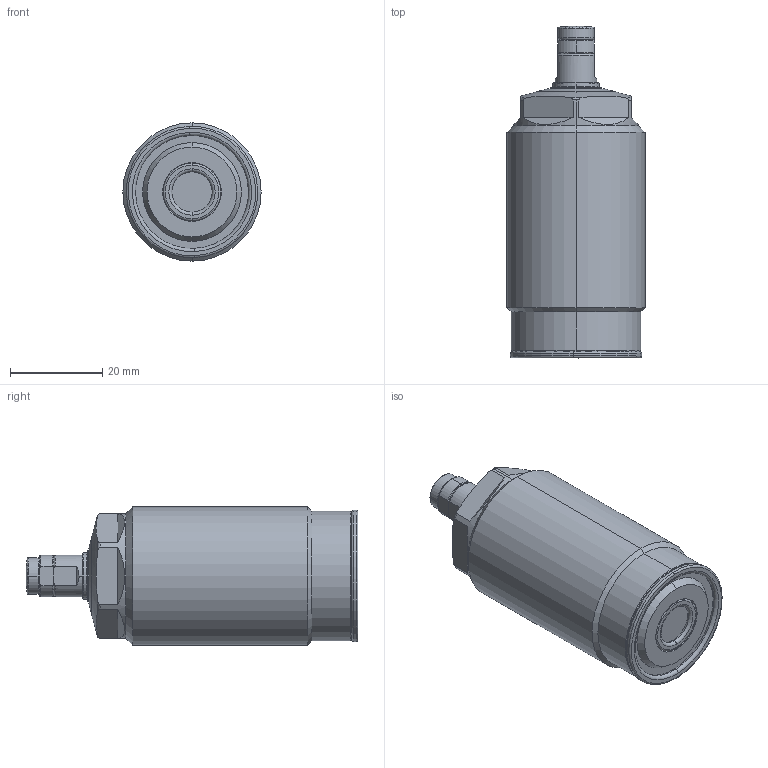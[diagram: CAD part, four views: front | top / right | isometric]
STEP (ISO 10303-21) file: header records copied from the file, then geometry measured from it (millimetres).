
FILE_DESCRIPTION(/* description */ (''),/* implementation_level */ '2;1');
FILE_NAME(/* name */ 'TNL30-M.stp',/* time_stamp */ '2023-07-04T11:21:45+08:00',/* author */ (''),/* organization */ (''),/* preprocessor_version */ 'ST-DEVELOPER v16.7',/* originating_system */ 'SIEMENS PLM Software NX 12.0',/* authorisation */ '');
FILE_SCHEMA (('AP203_CONFIGURATION_CONTROLLED_3D_DESIGN_OF_MECHANICAL_PARTS_AND_ASSEMBLIES_MIM_LF { 1 0 10303 403 2 1 2}'));
Length unit declared in the file: millimetre
Products named in the file (9): XLD-M6SP_pad; XLD-M6SP_pin; XLD-M6SP_contactbolt; XLD-M6SP_Oring; TNL30-05; TNL30-02; TNL30-01; XLDM6SP; TNL30_stp
Assembly tree (8 placements, depth 3):
  TNL30_stp
    TNL30-01
    TNL30-02
    TNL30-05
    XLDM6SP
      XLD-M6SP_Oring
      XLD-M6SP_contactbolt
      XLD-M6SP_pin
      XLD-M6SP_pad
Bounding box: 30 x 72 x 30 mm (x, y, z)
Volume: 38785.4 mm3; surface area: 8599.4 mm2
Topology: 7 solids, 7 shells, 196 faces, 440 edges, 266 vertices
Faces by surface type: torus 57, cylinder 53, plane 45, cone 37, sphere 4
Entity records: 7141 total; most frequent: CARTESIAN_POINT 1649, DIRECTION 1041, ORIENTED_EDGE 880, AXIS2_PLACEMENT_3D 456, EDGE_CURVE 440, VERTEX_POINT 266, CIRCLE 251, EDGE_LOOP 216
